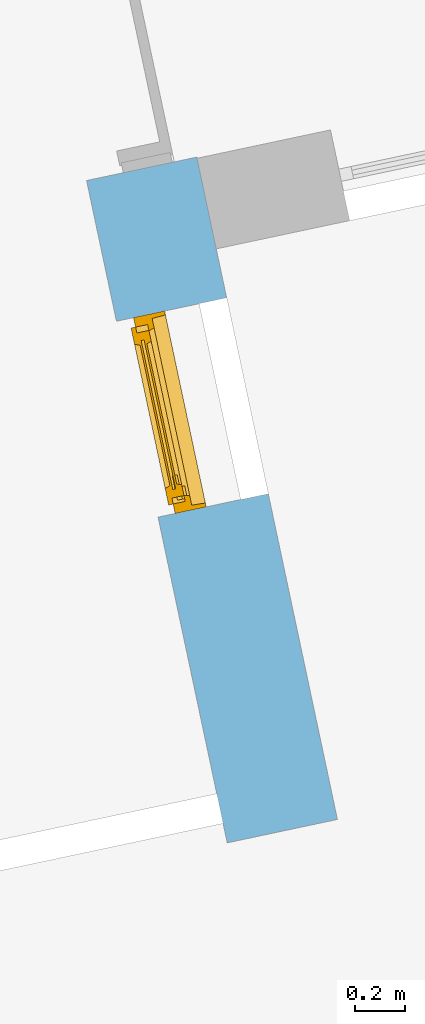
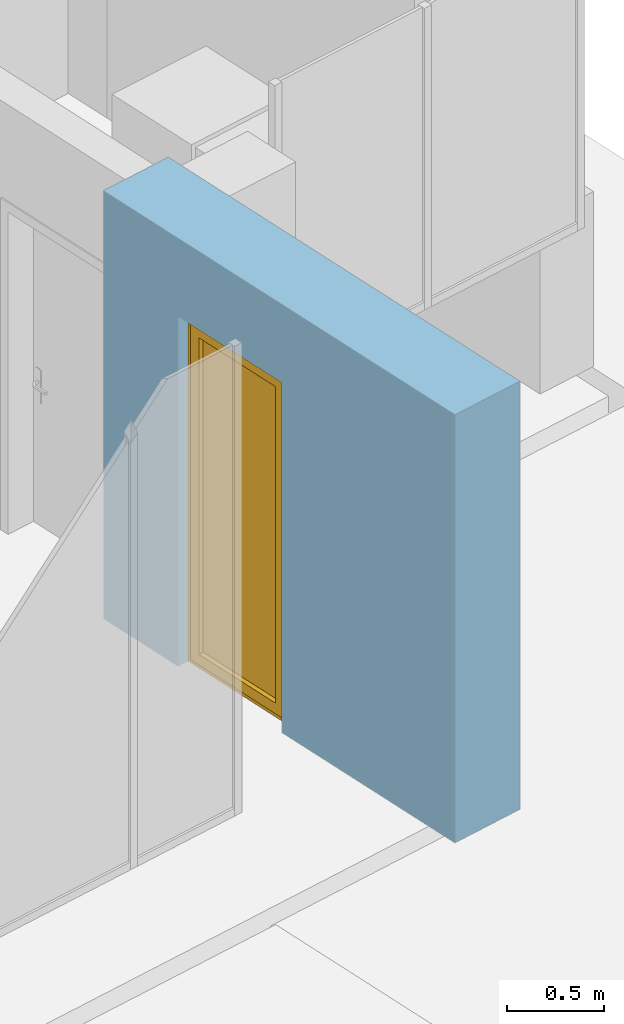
# One storey, part 6 of 17: 1 window, 1 opening, plus 1 element that does not belong to this part.
"""IFC2X3 building model written with IfcOpenShell, lengths in centimetres."""

import ifcopenshell
import ifcopenshell.guid

model = None  # the IFC model being written
_history = None  # IfcOwnerHistory: only IFC2X3 demands one
_inside = {}  # id of a spatial element -> (the spatial element, [elements in it])
_under = {}  # id of a project, library or spatial element -> (it, [spatial elements below it])
_declared = {}  # id of a project -> (the project, [libraries it declares])
_typed = {}  # id of a type object -> (the type object, [elements of that type])
_made_of = {}  # id of a material, layer set ... -> (it, [elements and type objects made of it])


def new_model(schema):
    """Start an empty IFC model of exactly this schema.

    Asked for "IFC4X3", IfcOpenShell would pick the latest addendum, in which some entities
    have other attributes; the version numbers below select the first issue.
    IFC2X3 requires an IfcOwnerHistory on every rooted entity: one is made here for all.
    """
    global model, _history
    if schema == "IFC4X3":
        model = ifcopenshell.file(schema_version=(4, 3, 0, 0))
    else:
        model = ifcopenshell.file(schema=schema)
    _inside.clear()
    _under.clear()
    _declared.clear()
    _typed.clear()
    _made_of.clear()
    _history = None
    if model.schema == "IFC2X3":
        org = make("IfcOrganization", Name="unknown")
        user = make(
            "IfcPersonAndOrganization",
            ThePerson=make("IfcPerson", FamilyName="unknown"),
            TheOrganization=org,
        )
        app = make(
            "IfcApplication",
            ApplicationDeveloper=org,
            Version="unknown",
            ApplicationFullName="unknown",
            ApplicationIdentifier="unknown",
        )
        _history = make(
            "IfcOwnerHistory",
            OwningUser=user,
            OwningApplication=app,
            ChangeAction="ADDED",
            CreationDate=0,
        )
    return model


def make(cls, **values):
    """One entity of the class cls with the attributes given. An attribute that is None is left unset."""
    return model.create_entity(
        cls, **{name: value for name, value in values.items() if value is not None}
    )


def entity(cls, *values):
    """Any entity or typed value of the class cls, its attributes in the order of the schema. None: left unset."""
    e = model.create_entity(cls)
    for i, value in enumerate(values):
        if value is not None:
            e[i] = value
    return e


def rooted(cls, **values):
    """An entity with a GlobalId (a new one), such as an element, a storey or a relation."""
    return make(cls, GlobalId=ifcopenshell.guid.new(), OwnerHistory=_history, **values)


def si_unit(unit_type, name, prefix=None):
    """IfcSIUnit, for example si_unit("LENGTHUNIT", "METRE", prefix="MILLI")."""
    return make("IfcSIUnit", UnitType=unit_type, Prefix=prefix, Name=name)


def converted_unit(unit_type, name, factor, base, dimensions=None, offset=None):
    """IfcConversionBasedUnit, such as the inch: factor (a typed value) times the base unit."""
    return make(
        "IfcConversionBasedUnit"
        if offset is None
        else "IfcConversionBasedUnitWithOffset",
        ConversionOffset=offset,
        Dimensions=None
        if dimensions is None
        else entity("IfcDimensionalExponents", *dimensions),
        UnitType=unit_type,
        Name=name,
        ConversionFactor=make(
            "IfcMeasureWithUnit", ValueComponent=factor, UnitComponent=base
        ),
    )


def derived_unit(unit_type, elements):
    """IfcDerivedUnit: a product of units, each with its exponent."""
    return make(
        "IfcDerivedUnit",
        Elements=[
            make("IfcDerivedUnitElement", Unit=unit, Exponent=power)
            for unit, power in elements
        ],
        UnitType=unit_type,
    )


def assignment(units):
    """IfcUnitAssignment: the units of a project."""
    return None if units is None else make("IfcUnitAssignment", Units=units)


def point(xyz):
    """IfcCartesianPoint."""
    return None if xyz is None else make("IfcCartesianPoint", Coordinates=xyz)


def direction(xyz):
    """IfcDirection."""
    return None if xyz is None else make("IfcDirection", DirectionRatios=xyz)


def frame(location, z_axis=None, x_axis=None):
    """IfcAxis2Placement3D, a coordinate frame: its origin and axes. An axis left out is left unset."""
    return make(
        "IfcAxis2Placement3D",
        Location=point(location),
        Axis=direction(z_axis),
        RefDirection=direction(x_axis),
    )


def frame_2d(location, x_axis=None):
    """IfcAxis2Placement2D, a coordinate frame in the plane: its origin and x axis."""
    return make(
        "IfcAxis2Placement2D", Location=point(location), RefDirection=direction(x_axis)
    )


def origin():
    """The frame at (0, 0, 0) with its axes left unset."""
    return frame((0.0, 0.0, 0.0))


def place(relative_to, where):
    """IfcLocalPlacement: puts the frame where relative to a parent placement (None: the world)."""
    return make(
        "IfcLocalPlacement", PlacementRelTo=relative_to, RelativePlacement=where
    )


def context(
    kind, dimensions, precision=None, world=None, true_north=None, identifier=None
):
    """IfcGeometricRepresentationContext, for example the 3D "Model" context."""
    return make(
        "IfcGeometricRepresentationContext",
        ContextIdentifier=identifier,
        ContextType=kind,
        CoordinateSpaceDimension=dimensions,
        Precision=precision,
        WorldCoordinateSystem=world,
        TrueNorth=true_north,
    )


def subcontext(parent, identifier, kind, view, scale=None):
    """IfcGeometricRepresentationSubContext, for example "Body" below "Model"."""
    return make(
        "IfcGeometricRepresentationSubContext",
        ContextIdentifier=identifier,
        ContextType=kind,
        ParentContext=parent,
        TargetScale=scale,
        TargetView=view,
    )


def project(units=None, contexts=None):
    """IfcProject with its units and contexts."""
    return rooted(
        "IfcProject",
        Name="project",
        RepresentationContexts=contexts,
        UnitsInContext=assignment(units),
    )


def spatial(cls, under=None, at=None, **own):
    """A site, building, storey or space (cls), placed at a placement, below another one or the project."""
    s = rooted(cls, ObjectPlacement=at, **own)
    if under is not None:
        _under.setdefault(under.id(), (under, []))[1].append(s)
    return s


def profile(cls, at=None, kind="AREA", **sizes):
    """A parametric profile (cls). Its sizes go by their IFC names, for example OverallWidth=200.0."""
    return make(cls, ProfileType=kind, Position=at, **sizes)


def rectangle(**sizes):
    """IfcRectangleProfileDef."""
    return profile("IfcRectangleProfileDef", **sizes)


def extrude(swept, where, along, depth):
    """IfcExtrudedAreaSolid: the profile swept, set in the frame where, extruded along a direction by depth."""
    return make(
        "IfcExtrudedAreaSolid",
        SweptArea=swept,
        Position=where,
        ExtrudedDirection=direction(along),
        Depth=depth,
    )


def faces_of(points, faces, orient=None, outer=None):
    """IfcFace entities. A face is a list of loops; a loop is a list of indices into points, from 0.

    orient and outer hold one flag for each loop. By default every Orientation is true, the
    first loop of a face is its IfcFaceOuterBound and the others are IfcFaceBound.
    """
    made = []
    for i, loops in enumerate(faces):
        bounds = []
        for j, loop in enumerate(loops):
            is_outer = j == 0 if outer is None else outer[i][j]
            bounds.append(
                make(
                    "IfcFaceOuterBound" if is_outer else "IfcFaceBound",
                    Bound=make("IfcPolyLoop", Polygon=[points[k] for k in loop]),
                    Orientation=True if orient is None else orient[i][j],
                )
            )
        made.append(make("IfcFace", Bounds=bounds))
    return made


def faceted_brep(points, faces, orient=None, outer=None, voids=None):
    """IfcFacetedBrep: a solid bounded by flat faces; with voids (closed shells), ...WithVoids."""
    shared = [point(p) for p in points]
    hull = make("IfcClosedShell", CfsFaces=faces_of(shared, faces, orient, outer))
    if voids is None:
        return make("IfcFacetedBrep", Outer=hull)
    return make(
        "IfcFacetedBrepWithVoids",
        Outer=hull,
        Voids=[
            make(cls, CfsFaces=faces_of(shared, fs, o, b)) for cls, fs, o, b in voids
        ],
    )


def shape(context_of_items, identifier, shape_type, items):
    """IfcShapeRepresentation: the items that make up one representation, for example the "Body"."""
    return make(
        "IfcShapeRepresentation",
        ContextOfItems=context_of_items,
        RepresentationIdentifier=identifier,
        RepresentationType=shape_type,
        Items=items,
    )


def source(mapping_origin, context_of_items, identifier, shape_type, items):
    """IfcRepresentationMap: a shape defined once, which mapped items show again and again."""
    return make(
        "IfcRepresentationMap",
        MappingOrigin=mapping_origin,
        MappedRepresentation=shape(context_of_items, identifier, shape_type, items),
    )


def transform(
    local_origin,
    x_axis=None,
    y_axis=None,
    z_axis=None,
    scale=None,
    scale2=None,
    scale3=None,
    uniform=True,
):
    """IfcCartesianTransformationOperator3D, or its non-uniform kind. x_axis, y_axis, z_axis: its Axis1, 2, 3."""
    if uniform:
        return make(
            "IfcCartesianTransformationOperator3D",
            Axis1=direction(x_axis),
            Axis2=direction(y_axis),
            LocalOrigin=point(local_origin),
            Scale=scale,
            Axis3=direction(z_axis),
        )
    return make(
        "IfcCartesianTransformationOperator3DnonUniform",
        Axis1=direction(x_axis),
        Axis2=direction(y_axis),
        LocalOrigin=point(local_origin),
        Scale=scale,
        Axis3=direction(z_axis),
        Scale2=scale2,
        Scale3=scale3,
    )


def mapped(mapping_source, mapping_target):
    """IfcMappedItem: shows the shape of a source again, moved by a transform."""
    return make(
        "IfcMappedItem", MappingSource=mapping_source, MappingTarget=mapping_target
    )


def material(Name=None, Category=None):
    """IfcMaterial."""
    return make("IfcMaterial", Name=Name, Category=Category)


def material_list(materials):
    """IfcMaterialList."""
    return make("IfcMaterialList", Materials=materials)


def layer(
    of_material, thickness, ventilated=None, Name=None, Category=None, Priority=None
):
    """IfcMaterialLayer: one layer of a wall or slab, of a material (None: an air gap)."""
    return make(
        "IfcMaterialLayer",
        Material=of_material,
        LayerThickness=thickness,
        IsVentilated=ventilated,
        Name=Name,
        Category=Category,
        Priority=Priority,
    )


def layer_set(layers, Name=None):
    """IfcMaterialLayerSet."""
    return make("IfcMaterialLayerSet", MaterialLayers=layers, LayerSetName=Name)


def layer_usage(for_layer_set, set_direction, sense, offset, extent=None):
    """IfcMaterialLayerSetUsage: how a layer set lies in its element."""
    return make(
        "IfcMaterialLayerSetUsage",
        ForLayerSet=for_layer_set,
        LayerSetDirection=set_direction,
        DirectionSense=sense,
        OffsetFromReferenceLine=offset,
        ReferenceExtent=extent,
    )


def made_of(thing, what):
    """Note that an element or type object is made of a material, layer set ...; save() writes the relation."""
    if what is not None:
        _made_of.setdefault(what.id(), (what, []))[1].append(thing)
    return thing


def type_object(cls, material=None, **own):
    """A type object (cls), such as IfcWallType, which elements share."""
    return made_of(rooted(cls, **own), material)


def type_shapes(of_type, sources):
    """Give a type object the sources (RepresentationMaps) that its elements show as mapped items."""
    of_type.RepresentationMaps = sources


def element(
    cls,
    number,
    at=None,
    inside=None,
    cuts=None,
    type_object=None,
    material=None,
    context=None,
    identifier="Body",
    shape_type=None,
    held_by="IfcProductDefinitionShape",
    body=None,
    shapes=None,
    **own,
):
    """One element of the class cls, such as IfcWall. Its Tag is "e" and its number.

    at: its placement. inside: the storey or other place that contains it. cuts: it is an
    opening in that element (IfcRelVoidsElement). A single representation is given by context,
    identifier, shape_type and body (its items); several are given by shapes. held_by: the class
    of the entity that holds the representations. save() writes the other relations.
    """
    e = rooted(cls, Tag="e%d" % number, ObjectPlacement=at, **own)
    if body is not None:
        shapes = [shape(context, identifier, shape_type, body)]
    if shapes is not None:
        e.Representation = make(held_by, Representations=shapes)
    if inside is not None:
        _inside.setdefault(inside.id(), (inside, []))[1].append(e)
    if cuts is not None:
        rooted(
            "IfcRelVoidsElement", RelatingBuildingElement=cuts, RelatedOpeningElement=e
        )
    if type_object is not None:
        _typed.setdefault(type_object.id(), (type_object, []))[1].append(e)
    return made_of(e, material)


def fill(opening, filler):
    """IfcRelFillsElement: the door or window that sits in an opening."""
    return rooted(
        "IfcRelFillsElement",
        RelatingOpeningElement=opening,
        RelatedBuildingElement=filler,
    )


def aggregate(whole, parts):
    """IfcRelAggregates: a whole, such as a stair, and the parts it consists of."""
    return rooted("IfcRelAggregates", RelatingObject=whole, RelatedObjects=parts)


def save(model, path):
    """Write the relations noted so far, then the file.

    IfcRelAggregates (storeys below a building ...), IfcRelContainedInSpatialStructure (elements
    in a storey), IfcRelDefinesByType, IfcRelAssociatesMaterial and IfcRelDeclares: one each for
    every whole, place, type object, material and project.
    """
    for whole, parts in _under.values():
        aggregate(whole, parts)
    for where, things in _inside.values():
        rooted(
            "IfcRelContainedInSpatialStructure",
            RelatedElements=things,
            RelatingStructure=where,
        )
    for kind, things in _typed.values():
        rooted("IfcRelDefinesByType", RelatedObjects=things, RelatingType=kind)
    for what, things in _made_of.values():
        rooted("IfcRelAssociatesMaterial", RelatedObjects=things, RelatingMaterial=what)
    for by, libraries in _declared.values():
        rooted("IfcRelDeclares", RelatingContext=by, RelatedDefinitions=libraries)
    model.write(path)


model = new_model("IFC2X3")

# Units and contexts
model_context = context("Model", 3, precision=0.001, world=origin(), true_north=direction((6.12303176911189e-17, 1.0)))
body_context = subcontext(model_context, "Body", "Model", "MODEL_VIEW")
ifc_project = project(units=[si_unit("LENGTHUNIT", "METRE", prefix="CENTI"), si_unit("AREAUNIT", "SQUARE_METRE"), si_unit("VOLUMEUNIT", "CUBIC_METRE"), converted_unit("PLANEANGLEUNIT", "DEGREE", entity("IfcRatioMeasure", 0.0174532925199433), si_unit("PLANEANGLEUNIT", "RADIAN"), dimensions=[0, 0, 0, 0, 0, 0, 0]), si_unit("MASSUNIT", "GRAM", prefix="KILO"), derived_unit("MASSDENSITYUNIT", [(si_unit("MASSUNIT", "GRAM", prefix="KILO"), 1), (si_unit("LENGTHUNIT", "METRE"), -3)]), derived_unit("IONCONCENTRATIONUNIT", [(si_unit("MASSUNIT", "GRAM", prefix="KILO"), 1), (si_unit("LENGTHUNIT", "METRE"), -3)]), derived_unit("MOMENTOFINERTIAUNIT", [(si_unit("LENGTHUNIT", "METRE"), 4)]), si_unit("TIMEUNIT", "SECOND"), si_unit("FREQUENCYUNIT", "HERTZ"), si_unit("THERMODYNAMICTEMPERATUREUNIT", "DEGREE_CELSIUS"), derived_unit("THERMALTRANSMITTANCEUNIT", [(si_unit("MASSUNIT", "GRAM", prefix="KILO"), 1), (si_unit("THERMODYNAMICTEMPERATUREUNIT", "KELVIN"), -1), (si_unit("TIMEUNIT", "SECOND"), -3)]), derived_unit("THERMALCONDUCTANCEUNIT", [(si_unit("MASSUNIT", "GRAM", prefix="KILO"), 1), (si_unit("THERMODYNAMICTEMPERATUREUNIT", "KELVIN"), -1), (si_unit("TIMEUNIT", "SECOND"), -3), (si_unit("LENGTHUNIT", "METRE"), 1)]), derived_unit("VOLUMETRICFLOWRATEUNIT", [(si_unit("LENGTHUNIT", "METRE"), 3), (si_unit("TIMEUNIT", "SECOND"), -1)]), derived_unit("MASSFLOWRATEUNIT", [(si_unit("MASSUNIT", "GRAM", prefix="KILO"), 1), (si_unit("TIMEUNIT", "SECOND"), -1)]), derived_unit("ROTATIONALFREQUENCYUNIT", [(si_unit("TIMEUNIT", "SECOND"), -1)]), si_unit("ELECTRICCURRENTUNIT", "AMPERE"), si_unit("ELECTRICVOLTAGEUNIT", "VOLT"), si_unit("POWERUNIT", "WATT"), si_unit("FORCEUNIT", "NEWTON", prefix="KILO"), si_unit("ILLUMINANCEUNIT", "LUX"), si_unit("LUMINOUSFLUXUNIT", "LUMEN"), si_unit("LUMINOUSINTENSITYUNIT", "CANDELA"), derived_unit("USERDEFINED", [(si_unit("MASSUNIT", "GRAM", prefix="KILO"), -1), (si_unit("LENGTHUNIT", "METRE"), -2), (si_unit("TIMEUNIT", "SECOND"), 3), (si_unit("LUMINOUSFLUXUNIT", "LUMEN"), 1)]), derived_unit("USERDEFINED", [(si_unit("MASSUNIT", "GRAM", prefix="KILO"), 1), (si_unit("TIMEUNIT", "SECOND"), -3), (si_unit("LENGTHUNIT", "METRE"), 3), (si_unit("ELECTRICCURRENTUNIT", "AMPERE"), -2)]), derived_unit("SOUNDPOWERUNIT", [(si_unit("MASSUNIT", "GRAM", prefix="KILO"), 1), (si_unit("TIMEUNIT", "SECOND"), -3), (si_unit("LENGTHUNIT", "METRE"), 2)]), derived_unit("SOUNDPRESSUREUNIT", [(si_unit("MASSUNIT", "GRAM", prefix="KILO"), 1), (si_unit("LENGTHUNIT", "METRE"), -1), (si_unit("TIMEUNIT", "SECOND"), -2)]), derived_unit("LINEARVELOCITYUNIT", [(si_unit("LENGTHUNIT", "METRE"), 1), (si_unit("TIMEUNIT", "SECOND"), -1)]), si_unit("PRESSUREUNIT", "PASCAL"), derived_unit("USERDEFINED", [(si_unit("MASSUNIT", "GRAM", prefix="KILO"), 1), (si_unit("LENGTHUNIT", "METRE"), -2), (si_unit("TIMEUNIT", "SECOND"), -2)]), derived_unit("LINEARFORCEUNIT", [(si_unit("MASSUNIT", "GRAM", prefix="KILO"), 1), (si_unit("TIMEUNIT", "SECOND"), -2)]), derived_unit("PLANARFORCEUNIT", [(si_unit("MASSUNIT", "GRAM", prefix="KILO"), 1), (si_unit("LENGTHUNIT", "METRE"), -1), (si_unit("TIMEUNIT", "SECOND"), -2)]), derived_unit("SPECIFICHEATCAPACITYUNIT", [(si_unit("THERMODYNAMICTEMPERATUREUNIT", "KELVIN"), -1), (si_unit("LENGTHUNIT", "METRE"), 2), (si_unit("TIMEUNIT", "SECOND"), -2)]), derived_unit("HEATINGVALUEUNIT", [(si_unit("LENGTHUNIT", "METRE"), 2), (si_unit("TIMEUNIT", "SECOND"), -2)]), derived_unit("VAPORPERMEABILITYUNIT", [(si_unit("LENGTHUNIT", "METRE"), -1), (si_unit("TIMEUNIT", "SECOND"), 1)]), derived_unit("DYNAMICVISCOSITYUNIT", [(si_unit("MASSUNIT", "GRAM", prefix="KILO"), 1), (si_unit("TIMEUNIT", "SECOND"), -1), (si_unit("LENGTHUNIT", "METRE"), -1)]), derived_unit("THERMALEXPANSIONCOEFFICIENTUNIT", [(si_unit("THERMODYNAMICTEMPERATUREUNIT", "KELVIN"), -1)]), derived_unit("MODULUSOFELASTICITYUNIT", [(si_unit("MASSUNIT", "GRAM", prefix="KILO"), 1), (si_unit("LENGTHUNIT", "METRE"), -1), (si_unit("TIMEUNIT", "SECOND"), -2)]), derived_unit("ISOTHERMALMOISTURECAPACITYUNIT", [(si_unit("LENGTHUNIT", "METRE"), 3), (si_unit("MASSUNIT", "GRAM", prefix="KILO"), -1)]), derived_unit("MOISTUREDIFFUSIVITYUNIT", [(si_unit("TIMEUNIT", "SECOND"), -1), (si_unit("LENGTHUNIT", "METRE"), 2)])], contexts=[model_context])

# Site, building, storey
site_placement = place(None, frame((14083.8920177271, -6853.25409548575, 6900.0), z_axis=(0.0, 0.0, 1.0), x_axis=(0.978188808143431, 0.207717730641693, 0.0)))
site = spatial("IfcSite", under=ifc_project, at=site_placement, Name="Surface", CompositionType="ELEMENT")
building_placement = place(site_placement, origin())
building = spatial("IfcBuilding", under=site, at=building_placement, CompositionType="ELEMENT")
storey_placement = place(building_placement, origin())
storey = spatial("IfcBuildingStorey", under=building, at=storey_placement, Name="_Rez de chaussée Séjour", CompositionType="ELEMENT", Elevation=2.07727662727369e-10)

# Wall, opening, window
ifc_material_1 = material(Name="__ PIERRE______________________TEST")
ifc_layer_1 = layer(ifc_material_1, 10.0)
ifc_material_2 = material(Name="__ BETON_parpaings")
ifc_layer_2 = layer(ifc_material_2, 20.0)
ifc_material_3 = material(Name="__ ISOLANT (pat 1)")
ifc_layer_3 = layer(ifc_material_3, 13.0)
ifc_material_4 = material(Name="__ ENDUIT_Blanc")
ifc_layer_4 = layer(ifc_material_4, 2.0)
ifc_layer_set = layer_set([ifc_layer_1, ifc_layer_2, ifc_layer_3, ifc_layer_4], Name="Mur de base:*Mur (45) maçonné isolé + parement pierre")
ifc_layer_usage = layer_usage(ifc_layer_set, "AXIS2", "NEGATIVE", 22.5)
wall_type = type_object("IfcWallType", Name="Mur de base:*Mur (45) maçonné isolé + parement pierre", PredefinedType="STANDARD", material=ifc_layer_set)
wall_placement = place(storey_placement, frame((-6267.31321908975, 14828.1324526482, 0.0), z_axis=(0.0, 0.0, 1.0), x_axis=(0.0, -1.0, 0.0)))
wall = element("IfcWallStandardCase", 1, at=wall_placement, inside=storey, type_object=wall_type, material=ifc_layer_usage, Name="Mur de base:*Mur (45) maçonné isolé + parement pierre", ObjectType="Mur de base:*Mur (45) maçonné isolé + parement pierre", context=body_context, shape_type="SweptSolid", body=[
    extrude(rectangle(XDim=270.500000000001, YDim=45.0000000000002, at=frame_2d((135.25, 1.58095758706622e-13), x_axis=(1.0, 0.0))), origin(), (0.0, 0.0, 1.0), 268.999999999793),
])
opening_placement = place(wall_placement, frame((137.465107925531, -22.4999999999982, -5.61495549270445), z_axis=(0.0, 0.0, 1.0), x_axis=(0.0, 1.0, 0.0)))
opening = element("IfcOpeningElement", 2, at=opening_placement, cuts=wall, Name="Mur de base:*Mur (45) maçonné isolé + parement pierre", ObjectType="Opening", context=body_context, shape_type="Brep", body=[
    faceted_brep([(0.0, 0.0, 225.614955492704), (0.0, 80.0, 225.614955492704), (0.0, 80.0, 5.61495549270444), (0.0, 0.0, 5.61495549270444), (45.0, 0.0, 225.614955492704), (45.0, 0.0, 5.61495549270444), (45.0, 79.8999999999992, 5.61495549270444), (45.0, 80.0, 5.61495549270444), (45.0, 80.0, 225.614955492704), (13.3000000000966, 0.0, 225.614955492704), (13.3000000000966, 0.0, 225.714955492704), (13.2000000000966, 0.0, 225.714955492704), (13.2000000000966, 0.0, 225.614955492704), (14.5000000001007, 80.0, 5.61495549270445), (14.5000000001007, 79.9000000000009, 5.61495549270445), (13.2000000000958, 80.0, 225.614955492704), (13.2000000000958, 80.0, 225.714955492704), (13.3000000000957, 80.0, 225.714955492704), (13.3000000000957, 80.0, 225.614955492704), (33.2000000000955, 80.0, 225.614955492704), (33.2000000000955, 80.0, 225.714955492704), (33.3000000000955, 80.0, 225.714955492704), (33.3000000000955, 80.0, 225.614955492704), (47.5000000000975, 80.0, 5.61495549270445), (47.5000000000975, 80.0, 0.0), (16.9974883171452, 80.0, 2.11559678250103), (14.5000000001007, 80.0, 2.11559678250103), (16.9974883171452, 79.9000000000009, 2.11559678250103), (47.5000000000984, 79.9000000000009, 0.0), (47.5000000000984, 79.9000000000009, 5.61495549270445), (14.5000000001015, 79.9000000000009, 2.11559678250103), (33.2000000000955, 79.9000000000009, 225.714955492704), (33.2000000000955, 79.9000000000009, 225.614955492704), (33.3000000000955, 79.9000000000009, 225.614955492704), (33.3000000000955, 79.9000000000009, 225.714955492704)], [[[0, 1, 2, 3]], [[4, 5, 6, 7, 8]], [[0, 3, 5, 4, 9, 10, 11, 12]], [[3, 2, 13, 14, 6, 5]], [[2, 1, 15, 16, 17, 18, 19, 20, 21, 22, 8, 7, 23, 24, 25, 26, 13]], [[1, 0, 12, 15]], [[27, 28, 29, 6, 14, 30]], [[27, 30, 26, 25]], [[30, 14, 13, 26]], [[29, 23, 7, 6]], [[29, 28, 24, 23]], [[28, 27, 25, 24]], [[31, 32, 33, 34]], [[31, 34, 21, 20]], [[34, 33, 22, 21]], [[32, 31, 20, 19]], [[12, 11, 16, 15]], [[11, 10, 17, 16]], [[10, 9, 18, 17]], [[4, 8, 22, 33, 32, 19, 18, 9]]]),
])
ifc_material_5 = material(Name="<Unnamed>")
ifc_material_6 = material(Name="Fenêtre - Vitrage")
ifc_material_7 = material(Name="__ METAL_gris foncé (menuiseries acier)______________________TEST")
ifc_material_list = material_list([ifc_material_5, ifc_material_6, ifc_material_7])
window_style = type_object("IfcWindowStyle", Name="*PVC 1 VANTAIL:PF 80*220+VR", ConstructionType="NOTDEFINED", OperationType="NOTDEFINED", ParameterTakesPrecedence=False, Sizeable=False, material=ifc_material_list)
shared_shape = source(origin(), body_context, "Body", "Brep", [
    faceted_brep([(150.0, 9.0, 93.6149554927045), (150.0, 11.0, 93.6149554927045), (140.0, 11.0, 93.6149554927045), (140.0, 9.0, 93.6149554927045), (150.0, 9.0, 91.6149554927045), (140.0, 9.0, 91.6149554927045), (140.0, 11.0, 91.6149554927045), (150.0, 11.0, 91.6149554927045)], [[[0, 1, 2, 3]], [[4, 5, 6, 7]], [[3, 5, 4, 0]], [[2, 6, 5, 3]], [[1, 7, 6, 2]], [[0, 4, 7, 1]]]),
    faceted_brep([(150.0, 11.0, 95.6149554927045), (150.0, 13.0, 95.6149554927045), (145.0, 13.0, 95.6149554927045), (145.0, 11.0, 95.6149554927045), (150.0, 11.0, 90.6149554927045), (145.0, 11.0, 90.6149554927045), (145.0, 13.0, 90.6149554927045), (150.0, 13.0, 90.6149554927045)], [[[0, 1, 2, 3]], [[4, 5, 6, 7]], [[3, 5, 4, 0]], [[2, 6, 5, 3]], [[1, 7, 6, 2]], [[0, 4, 7, 1]]]),
    faceted_brep([(145.416484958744, 7.25296298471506, 216.031440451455), (145.416484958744, 8.03717831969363, 216.031440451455), (84.5835150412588, 8.03717831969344, 216.031440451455), (84.5835150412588, 7.25296298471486, 216.031440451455), (145.416484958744, 7.25296298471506, 15.198470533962), (84.5835150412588, 7.25296298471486, 15.198470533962), (84.5835150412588, 8.03717831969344, 15.198470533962), (145.416484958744, 8.03717831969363, 15.198470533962)], [[[0, 1, 2, 3]], [[4, 5, 6, 7]], [[3, 5, 4, 0]], [[2, 6, 5, 3]], [[1, 7, 6, 2]], [[0, 4, 7, 1]]]),
    faceted_brep([(84.5835150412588, 9.2397388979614, 216.031440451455), (84.5835150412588, 9.2397388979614, 15.198470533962), (145.416484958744, 9.2397388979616, 15.198470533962), (145.416484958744, 9.2397388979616, 216.031440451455), (84.5835150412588, 10.0397388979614, 216.031440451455), (84.5835150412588, 10.0397388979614, 15.198470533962), (145.416484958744, 10.0397388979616, 216.031440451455), (145.416484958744, 10.0397388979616, 15.198470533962)], [[[0, 1, 2, 3]], [[4, 5, 1, 0]], [[6, 7, 5, 4]], [[3, 2, 7, 6]], [[2, 1, 5, 7]], [[3, 6, 4, 0]]]),
    faceted_brep([(84.5835150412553, 7.25296298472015, 216.031440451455), (84.5835150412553, 7.25296298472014, 15.1984705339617), (84.5835150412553, 10.0397388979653, 15.1984705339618), (84.5835150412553, 10.0397388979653, 216.031440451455), (85.5691641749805, 5.15897052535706, 215.04579131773), (85.5691641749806, 5.15897052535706, 16.184119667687), (86.3313151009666, 7.25296298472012, 16.9462705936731), (86.3313151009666, 7.25296298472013, 214.283640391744), (78.8763363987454, 7.00296298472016, 221.738619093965), (78.8763363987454, 7.00296298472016, 9.49129189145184), (78.8763363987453, 5.15897052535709, 9.49129189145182), (78.8763363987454, 5.1589705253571, 221.738619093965), (81.2863363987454, 11.9191241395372, 219.328619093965), (81.2863363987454, 11.9191241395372, 11.9012918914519), (81.2863363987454, 7.00296298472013, 11.9012918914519), (81.2863363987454, 7.00296298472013, 219.328619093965), (86.3540380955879, 10.0397388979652, 214.260917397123), (86.3540380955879, 10.0397388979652, 16.9689935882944), (85.6699978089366, 11.9191241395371, 16.284953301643), (85.6699978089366, 11.9191241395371, 214.944957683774), (145.416484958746, 7.25296298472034, 15.1984705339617), (145.416484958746, 10.0397388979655, 15.1984705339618), (144.430835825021, 5.15897052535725, 16.184119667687), (143.668684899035, 7.25296298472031, 16.9462705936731), (151.123663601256, 7.00296298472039, 9.49129189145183), (151.123663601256, 5.15897052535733, 9.4912918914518), (148.713663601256, 11.9191241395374, 11.9012918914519), (148.713663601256, 7.00296298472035, 11.9012918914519), (143.645961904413, 10.0397388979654, 16.9689935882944), (144.330002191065, 11.9191241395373, 16.2849533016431), (145.416484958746, 7.25296298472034, 216.031440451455), (145.416484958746, 10.0397388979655, 216.031440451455), (144.430835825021, 5.15897052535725, 215.04579131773), (143.668684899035, 7.25296298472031, 214.283640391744), (151.123663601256, 7.0029629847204, 221.738619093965), (151.123663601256, 5.15897052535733, 221.738619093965), (148.713663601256, 11.9191241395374, 219.328619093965), (148.713663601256, 7.00296298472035, 219.328619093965), (143.645961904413, 10.0397388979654, 214.260917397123), (144.330002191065, 11.9191241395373, 214.944957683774)], [[[0, 1, 2, 3]], [[4, 5, 6, 7]], [[8, 9, 10, 11]], [[12, 13, 14, 15]], [[16, 17, 18, 19]], [[1, 20, 21, 2]], [[5, 22, 23, 6]], [[9, 24, 25, 10]], [[13, 26, 27, 14]], [[17, 28, 29, 18]], [[20, 30, 31, 21]], [[22, 32, 33, 23]], [[24, 34, 35, 25]], [[26, 36, 37, 27]], [[28, 38, 39, 29]], [[30, 0, 3, 31]], [[7, 6, 23, 33], [1, 0, 30, 20]], [[32, 4, 7, 33]], [[11, 10, 25, 35], [5, 4, 32, 22]], [[34, 8, 11, 35]], [[15, 14, 27, 37], [9, 8, 34, 24]], [[36, 12, 15, 37]], [[19, 18, 29, 39], [13, 12, 36, 26]], [[38, 16, 19, 39]], [[3, 2, 21, 31], [17, 16, 38, 28]]], outer=[[True], [True], [True], [True], [True], [True], [True], [True], [True], [True], [True], [True], [True], [True], [True], [True], [False, True], [True], [True, False], [True], [False, True], [True], [False, True], [True], [True, False]]),
    faceted_brep([(75.0, 19.6482873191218, 225.614955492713), (75.0, 7.0, 225.614955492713), (155.0, 7.0, 225.614955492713), (155.0, 19.6482873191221, 225.614955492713), (153.409026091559, 19.6482873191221, 225.614955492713), (153.121178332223, 14.1558248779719, 225.614955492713), (76.8788216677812, 14.1558248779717, 225.614955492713), (76.590973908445, 19.648287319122, 225.614955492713), (155.0, 7.0, 5.61495549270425), (155.0, 19.6482873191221, 5.61495549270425), (75.0, 19.6482873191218, 5.61495549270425), (76.590973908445, 19.648287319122, 7.20592940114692), (153.409026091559, 19.6482873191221, 7.2059294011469), (153.121178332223, 14.1558248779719, 7.4937771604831), (76.8788216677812, 14.1558248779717, 7.49377716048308), (80.6883423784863, 14.1558248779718, 11.3032978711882), (149.311657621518, 14.1558248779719, 11.3032978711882), (149.311657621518, 14.1558248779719, 219.926613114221), (80.6883423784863, 14.1558248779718, 219.926613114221), (148.713663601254, 12.4191241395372, 11.9012918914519), (148.713663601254, 12.4191241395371, 219.328619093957), (148.713663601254, 11.9191241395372, 11.9012918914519), (148.713663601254, 11.9191241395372, 219.328619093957), (151.123076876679, 11.9191241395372, 9.49187861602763), (151.123076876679, 11.9191241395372, 221.738032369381), (78.8769231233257, 11.9191241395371, 221.738032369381), (78.8769231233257, 11.9191241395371, 9.49187861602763), (81.28633639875, 11.919124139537, 11.9012918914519), (81.28633639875, 11.919124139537, 219.328619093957), (151.123076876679, 7.0, 9.49187861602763), (151.123076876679, 7.0, 221.738032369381), (75.0, 7.0, 5.61495549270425), (78.8769231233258, 7.0, 9.49187861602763), (78.8769231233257, 7.0, 221.738032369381), (81.28633639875, 12.4191241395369, 219.328619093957), (81.28633639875, 12.4191241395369, 11.9012918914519)], [[[0, 1, 2, 3, 4, 5, 6, 7]], [[8, 9, 3, 2]], [[3, 9, 10, 0, 7, 11, 12, 4]], [[4, 12, 13, 5]], [[5, 13, 14, 6], [15, 16, 17, 18]], [[19, 20, 17, 16]], [[21, 22, 20, 19]], [[23, 24, 25, 26], [21, 27, 28, 22]], [[29, 30, 24, 23]], [[1, 31, 8, 2], [29, 32, 33, 30]], [[33, 25, 24, 30]], [[28, 34, 20, 22]], [[17, 20, 34, 18]], [[26, 32, 29, 23]], [[19, 35, 27, 21]], [[15, 35, 19, 16]], [[11, 14, 13, 12]], [[8, 31, 10, 9]], [[25, 33, 32, 26]], [[35, 34, 28, 27]], [[15, 18, 34, 35]], [[14, 11, 7, 6]], [[10, 31, 1, 0]]]),
])
type_shapes(window_style, [shared_shape])
window_placement = place(opening_placement, frame((0.0, 155.0, 0.0), z_axis=(0.0, 0.0, 1.0), x_axis=(0.0, -1.0, 0.0)))
window = element("IfcWindow", 3, at=window_placement, inside=storey, type_object=window_style, material=ifc_material_list, Name="*PVC 1 VANTAIL:PF 80*220+VR", ObjectType="*PVC 1 VANTAIL:PF 80*220+VR", OverallHeight=225.541560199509, OverallWidth=85.000000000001, context=body_context, shape_type="MappedRepresentation", body=[
    mapped(shared_shape, transform((0.0, 0.0, 0.0), scale=1.0)),
])
fill(opening, window)

save(model, "model.ifc")
